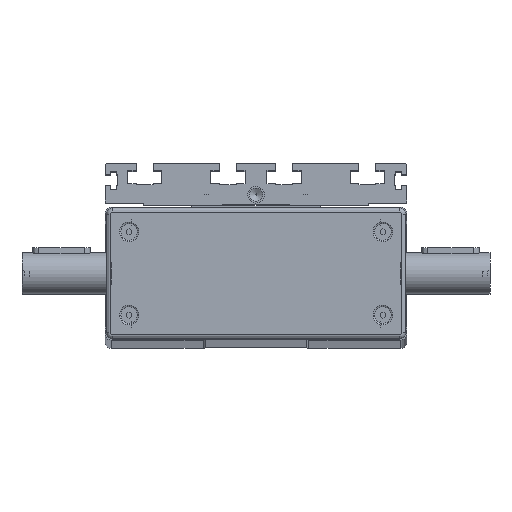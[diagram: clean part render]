
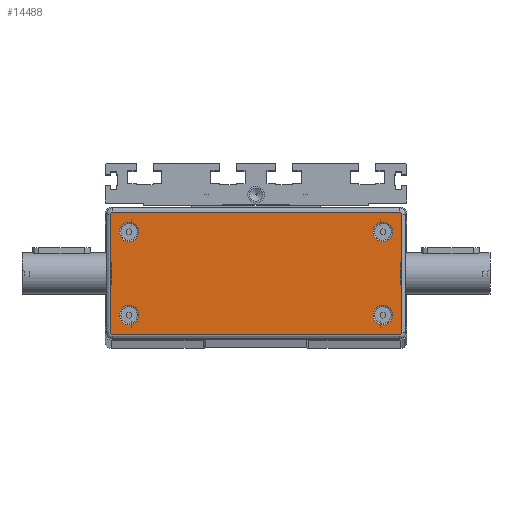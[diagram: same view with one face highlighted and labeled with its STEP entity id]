
A CAD part, top view. The second image highlights one B-rep face of the part: STEP entity #14488.
In plain terms, the highlighted planar face has unit normal (0, 0, 1) as drawn and (-1, 0, 0) by its records, which use the part's own axes.
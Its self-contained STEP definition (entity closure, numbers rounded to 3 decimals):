
#108=PLANE('',#15175);
#601=LINE('',#19285,#1633);
#602=LINE('',#19290,#1634);
#603=LINE('',#19294,#1635);
#604=LINE('',#19298,#1636);
#1633=VECTOR('',#16244,1000.);
#1634=VECTOR('',#16247,1000.);
#1635=VECTOR('',#16250,1000.);
#1636=VECTOR('',#16253,1000.);
#2713=ORIENTED_EDGE('',*,*,#5443,.T.);
#2714=ORIENTED_EDGE('',*,*,#5444,.T.);
#2715=ORIENTED_EDGE('',*,*,#5445,.T.);
#2716=ORIENTED_EDGE('',*,*,#5446,.T.);
#2717=ORIENTED_EDGE('',*,*,#5447,.T.);
#2718=ORIENTED_EDGE('',*,*,#5448,.T.);
#2719=ORIENTED_EDGE('',*,*,#5449,.T.);
#2720=ORIENTED_EDGE('',*,*,#5450,.T.);
#2721=ORIENTED_EDGE('',*,*,#5451,.T.);
#2722=ORIENTED_EDGE('',*,*,#5452,.T.);
#2723=ORIENTED_EDGE('',*,*,#5453,.T.);
#2724=ORIENTED_EDGE('',*,*,#5454,.T.);
#5443=EDGE_CURVE('',#6808,#6809,#601,.F.);
#5444=EDGE_CURVE('',#6809,#6810,#7763,.F.);
#5445=EDGE_CURVE('',#6810,#6811,#602,.F.);
#5446=EDGE_CURVE('',#6811,#6812,#7764,.F.);
#5447=EDGE_CURVE('',#6812,#6813,#603,.F.);
#5448=EDGE_CURVE('',#6813,#6814,#7765,.F.);
#5449=EDGE_CURVE('',#6814,#6815,#604,.F.);
#5450=EDGE_CURVE('',#6815,#6808,#7766,.F.);
#5451=EDGE_CURVE('',#6816,#6816,#7767,.T.);
#5452=EDGE_CURVE('',#6817,#6817,#7768,.T.);
#5453=EDGE_CURVE('',#6818,#6818,#7769,.T.);
#5454=EDGE_CURVE('',#6819,#6819,#7770,.T.);
#6808=VERTEX_POINT('',#19286);
#6809=VERTEX_POINT('',#19287);
#6810=VERTEX_POINT('',#19289);
#6811=VERTEX_POINT('',#19291);
#6812=VERTEX_POINT('',#19293);
#6813=VERTEX_POINT('',#19295);
#6814=VERTEX_POINT('',#19297);
#6815=VERTEX_POINT('',#19299);
#6816=VERTEX_POINT('',#19302);
#6817=VERTEX_POINT('',#19304);
#6818=VERTEX_POINT('',#19306);
#6819=VERTEX_POINT('',#19308);
#7763=CIRCLE('',#15176,1.);
#7764=CIRCLE('',#15177,1.);
#7765=CIRCLE('',#15178,1.);
#7766=CIRCLE('',#15179,1.);
#7767=CIRCLE('',#15180,4.7);
#7768=CIRCLE('',#15181,4.7);
#7769=CIRCLE('',#15182,4.7);
#7770=CIRCLE('',#15183,4.7);
#8107=EDGE_LOOP('',(#2713,#2714,#2715,#2716,#2717,#2718,#2719,#2720));
#8108=EDGE_LOOP('',(#2721));
#8109=EDGE_LOOP('',(#2722));
#8110=EDGE_LOOP('',(#2723));
#8111=EDGE_LOOP('',(#2724));
#9001=FACE_BOUND('',#8107,.T.);
#9002=FACE_BOUND('',#8108,.T.);
#9003=FACE_BOUND('',#8109,.T.);
#9004=FACE_BOUND('',#8110,.T.);
#9005=FACE_BOUND('',#8111,.T.);
#14488=ADVANCED_FACE('',(#9001,#9002,#9003,#9004,#9005),#108,.F.);
#15175=AXIS2_PLACEMENT_3D('',#19284,#16242,#16243);
#15176=AXIS2_PLACEMENT_3D('',#19288,#16245,#16246);
#15177=AXIS2_PLACEMENT_3D('',#19292,#16248,#16249);
#15178=AXIS2_PLACEMENT_3D('',#19296,#16251,#16252);
#15179=AXIS2_PLACEMENT_3D('',#19300,#16254,#16255);
#15180=AXIS2_PLACEMENT_3D('',#19301,#16256,#16257);
#15181=AXIS2_PLACEMENT_3D('',#19303,#16258,#16259);
#15182=AXIS2_PLACEMENT_3D('',#19305,#16260,#16261);
#15183=AXIS2_PLACEMENT_3D('',#19307,#16262,#16263);
#16242=DIRECTION('',(1.,0.,0.));
#16243=DIRECTION('',(0.,0.,-1.));
#16244=DIRECTION('',(0.,0.,1.));
#16245=DIRECTION('',(1.,0.,0.));
#16246=DIRECTION('',(0.,0.,-1.));
#16247=DIRECTION('',(0.,1.,0.));
#16248=DIRECTION('',(1.,0.,0.));
#16249=DIRECTION('',(0.,0.,-1.));
#16250=DIRECTION('',(0.,0.,-1.));
#16251=DIRECTION('',(1.,0.,0.));
#16252=DIRECTION('',(0.,0.,-1.));
#16253=DIRECTION('',(0.,-1.,0.));
#16254=DIRECTION('',(1.,0.,0.));
#16255=DIRECTION('',(0.,0.,-1.));
#16256=DIRECTION('',(1.,0.,0.));
#16257=DIRECTION('',(0.,0.,-1.));
#16258=DIRECTION('',(1.,0.,0.));
#16259=DIRECTION('',(0.,0.,-1.));
#16260=DIRECTION('',(1.,0.,0.));
#16261=DIRECTION('',(0.,0.,-1.));
#16262=DIRECTION('',(1.,0.,0.));
#16263=DIRECTION('',(0.,0.,-1.));
#19284=CARTESIAN_POINT('',(-34.5,-28.5,69.));
#19285=CARTESIAN_POINT('',(-34.5,29.5,69.));
#19286=CARTESIAN_POINT('',(-34.5,29.5,69.));
#19287=CARTESIAN_POINT('',(-34.5,29.5,-69.));
#19288=CARTESIAN_POINT('',(-34.5,28.5,-69.));
#19289=CARTESIAN_POINT('',(-34.5,28.5,-70.));
#19290=CARTESIAN_POINT('',(-34.5,-28.5,-70.));
#19291=CARTESIAN_POINT('',(-34.5,-28.5,-70.));
#19292=CARTESIAN_POINT('',(-34.5,-28.5,-69.));
#19293=CARTESIAN_POINT('',(-34.5,-29.5,-69.));
#19294=CARTESIAN_POINT('',(-34.5,-29.5,69.));
#19295=CARTESIAN_POINT('',(-34.5,-29.5,69.));
#19296=CARTESIAN_POINT('',(-34.5,-28.5,69.));
#19297=CARTESIAN_POINT('',(-34.5,-28.5,70.));
#19298=CARTESIAN_POINT('',(-34.5,-28.5,70.));
#19299=CARTESIAN_POINT('',(-34.5,28.5,70.));
#19300=CARTESIAN_POINT('',(-34.5,28.5,69.));
#19301=CARTESIAN_POINT('',(-34.5,-20.,61.));
#19302=CARTESIAN_POINT('',(-34.5,-20.,56.3));
#19303=CARTESIAN_POINT('',(-34.5,20.,61.));
#19304=CARTESIAN_POINT('',(-34.5,20.,56.3));
#19305=CARTESIAN_POINT('',(-34.5,20.,-61.));
#19306=CARTESIAN_POINT('',(-34.5,20.,-65.7));
#19307=CARTESIAN_POINT('',(-34.5,-20.,-61.));
#19308=CARTESIAN_POINT('',(-34.5,-20.,-65.7));
